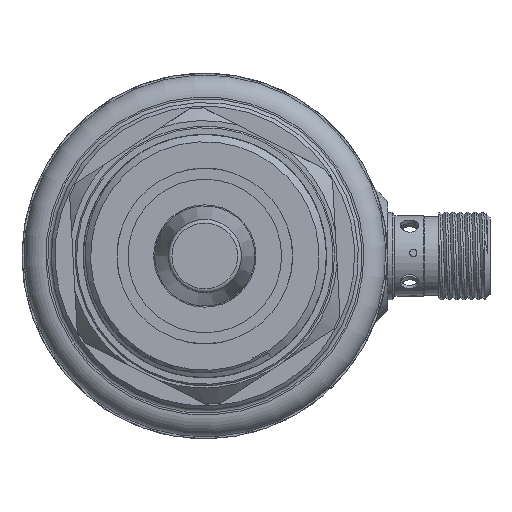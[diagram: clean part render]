
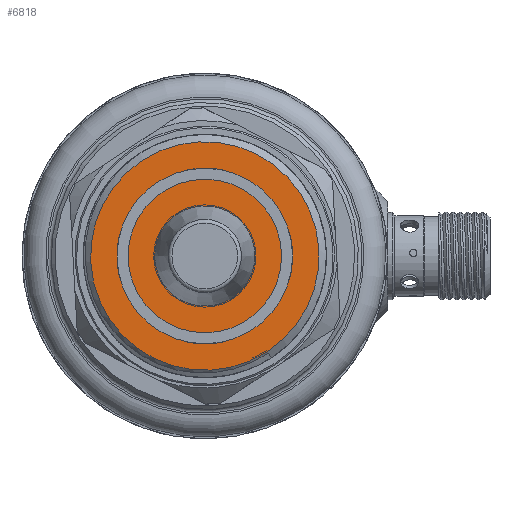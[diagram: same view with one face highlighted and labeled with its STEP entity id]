
A CAD part, front view. The second image highlights one B-rep face of the part: STEP entity #6818.
In plain terms, the highlighted planar face has unit normal (0, -1, 0) as drawn and (-1, 0, 0) by its records, which use the part's own axes.
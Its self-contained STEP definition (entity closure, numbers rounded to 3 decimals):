
#489 = DIRECTION ( 'NONE',  ( -1., 0., 0. ) ) ;
#928 = FACE_BOUND ( 'NONE', #2366, .T. ) ;
#1578 = CIRCLE ( 'NONE', #5806, 6.85 ) ;
#2056 = CARTESIAN_POINT ( 'NONE',  ( 2.5, 0., -7.125 ) ) ;
#2317 = DIRECTION ( 'NONE',  ( 0., 0., -1. ) ) ;
#2366 = EDGE_LOOP ( 'NONE', ( #12228 ) ) ;
#3387 = DIRECTION ( 'NONE',  ( 1., 0., 0. ) ) ;
#3504 = VERTEX_POINT ( 'NONE', #6713 ) ;
#4202 = DIRECTION ( 'NONE',  ( 1., 0., 0. ) ) ;
#4348 = CARTESIAN_POINT ( 'NONE',  ( 2.5, 0., -0.275 ) ) ;
#4651 = EDGE_CURVE ( 'NONE', #11600, #11600, #1578, .T. ) ;
#4748 = DIRECTION ( 'NONE',  ( 0., 0., -1. ) ) ;
#5149 = CIRCLE ( 'NONE', #12942, 15.626 ) ;
#5188 = PLANE ( 'NONE',  #7742 ) ;
#5773 = EDGE_CURVE ( 'NONE', #3504, #3504, #5149, .T. ) ;
#5806 = AXIS2_PLACEMENT_3D ( 'NONE', #4348, #3387, #11966 ) ;
#5820 = EDGE_LOOP ( 'NONE', ( #12085 ) ) ;
#6713 = CARTESIAN_POINT ( 'NONE',  ( 2.5, 0., -15.901 ) ) ;
#6818 = ADVANCED_FACE ( 'NONE', ( #10468, #928 ), #5188, .F. ) ;
#7742 = AXIS2_PLACEMENT_3D ( 'NONE', #13697, #4202, #2317 ) ;
#10022 = CARTESIAN_POINT ( 'NONE',  ( 2.5, 0., -0.275 ) ) ;
#10468 = FACE_OUTER_BOUND ( 'NONE', #5820, .T. ) ;
#11600 = VERTEX_POINT ( 'NONE', #2056 ) ;
#11966 = DIRECTION ( 'NONE',  ( 0., 0., -1. ) ) ;
#12085 = ORIENTED_EDGE ( 'NONE', *, *, #5773, .T. ) ;
#12228 = ORIENTED_EDGE ( 'NONE', *, *, #4651, .T. ) ;
#12942 = AXIS2_PLACEMENT_3D ( 'NONE', #10022, #489, #4748 ) ;
#13697 = CARTESIAN_POINT ( 'NONE',  ( 2.5, 0., -0.275 ) ) ;
